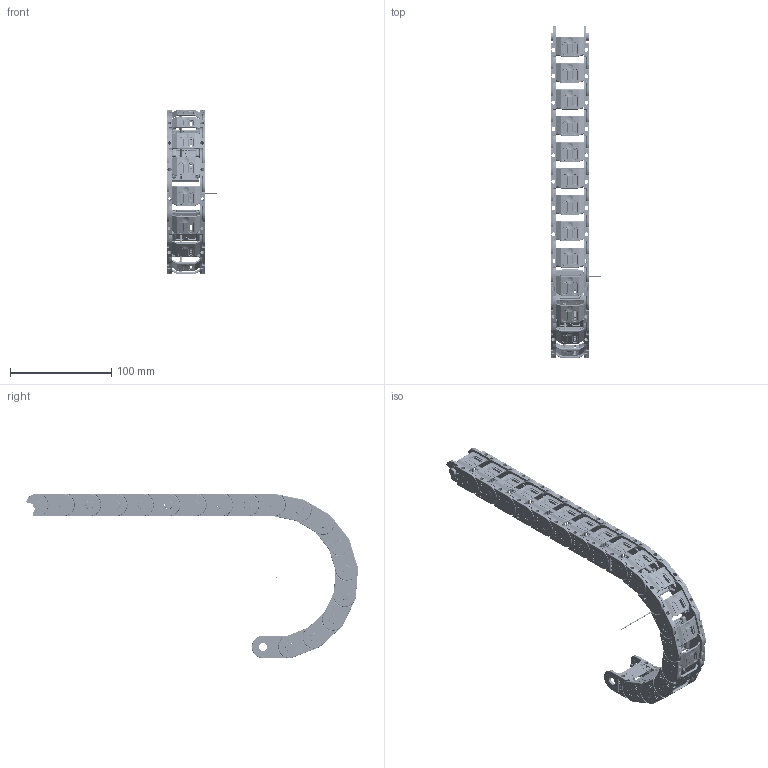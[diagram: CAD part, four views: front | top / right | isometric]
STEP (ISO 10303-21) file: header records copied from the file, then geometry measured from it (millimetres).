
FILE_DESCRIPTION((''),'2;1');
FILE_NAME('E:\Uebbing\PARAMETERKETTEN\KOLIBRI\Kol_22_038_0\KOLIBRI 22_038_0_PARAMETRISCH.stp','2020-03-11T10:17:00',('Nutzer'),(''),'Autodesk Inventor 10','Autodesk Inventor 10','');
FILE_SCHEMA(('AUTOMOTIVE_DESIGN { 1 0 10303 214 1 1 1 1 }'));
Length unit declared in the file: millimetre
Products named in the file (6): KOLIBRI 22_038_0_PARAMETRISCH; Achse; Kol_22_038_0; Kol_22_038_0_PZ_Stecksteg; Kol_22_038_0_Klappsteg; Kol_22_038_0_Lasche
Assembly tree (22 placements, depth 3):
  KOLIBRI 22_038_0_PARAMETRISCH
    Achse
    Kol_22_038_0  x18
      Kol_22_038_0_PZ_Stecksteg
      Kol_22_038_0_Klappsteg
      Kol_22_038_0_Lasche
Bounding box: 50 x 327.22 x 162 mm (x, y, z)
Volume: 132104.9 mm3; surface area: 150085 mm2
Topology: 55 solids, 55 shells, 25473 faces, 67954 edges, 44085 vertices
Faces by surface type: plane 11882, bspline 7272, cylinder 4969, torus 828, sphere 342, cone 180
Full cylindrical faces by diameter (mm): 0.804 x36, 1 x1, 1.412 x36, 1.9 x72, 2 x72, 3 x108, 4 x36, 5 x36, 8 x36, 8.1 x36
Entity records: 48426 total; most frequent: CARTESIAN_POINT 15364, ORIENTED_EDGE 7424, DIRECTION 5675, EDGE_CURVE 3712, VERTEX_POINT 2437, VECTOR 2193, LINE 2193, AXIS2_PLACEMENT_3D 1741
